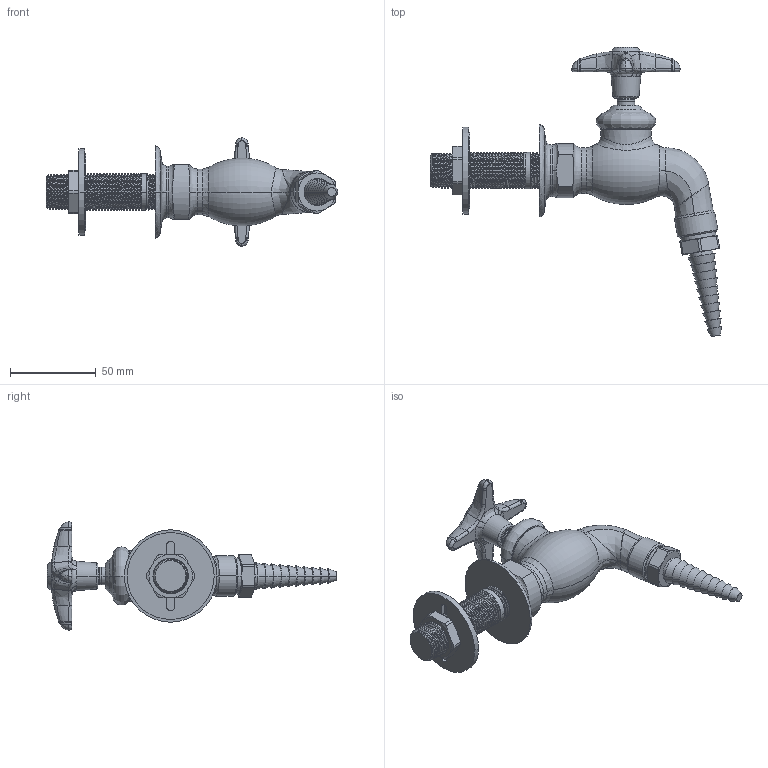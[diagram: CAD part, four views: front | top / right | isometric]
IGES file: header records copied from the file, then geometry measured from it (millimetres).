
Start section:  PTC IGES file: LWV4-C14.igs
Global section: file name: LWV4-C14.igs; native system: Creo Parametric by PTC Inc.; preprocessor: 2014500; author: usch_engrender; organization: Unknown; date: 20150915.132119; units: inch
Bounding box: 170.24 x 169.01 x 63.42 mm (x, y, z)
Volume: 156955.6 mm3; surface area: 36219.4 mm2
Topology: 1 solids, 2 shells, 444 faces, 1066 edges, 647 vertices
Faces by surface type: bspline 242, revolution 202
